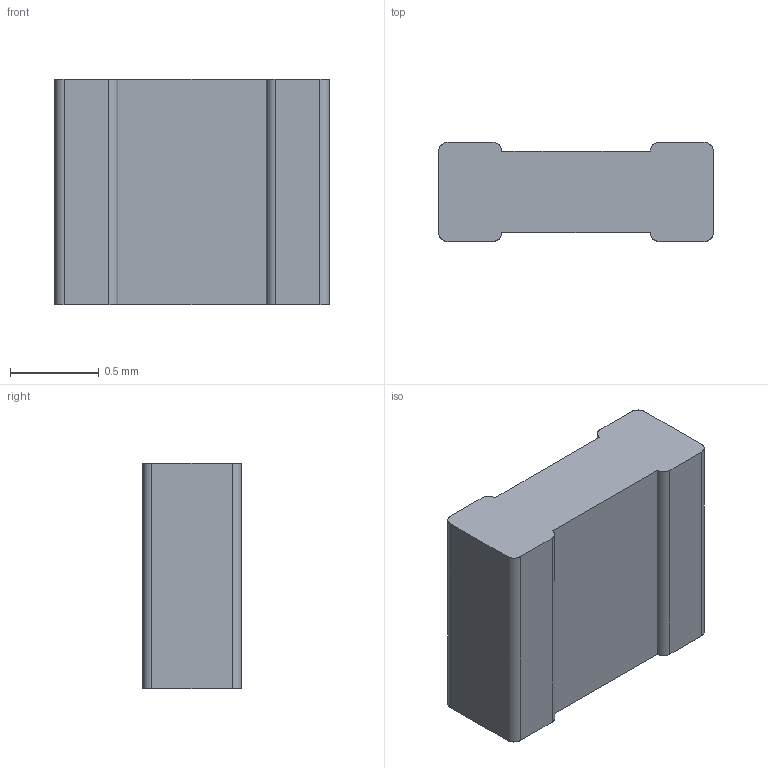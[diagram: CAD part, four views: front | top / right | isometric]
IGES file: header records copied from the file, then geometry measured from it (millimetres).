
Start section: SolidWorks IGES file using analytic representation for surfaces
Global section: file name: C:\Users\austin.mayabb\OneDrive - Lake Shore Cryotronics\SolidWorks Project\Defeatured Parts\Rox Final Defeatures\RX-102A-BR\RX-102A-BR.IGS; native system: SolidWorks 2020; preprocessor: SolidWorks 2020; author: austin.mayabb; date: 200511.112559; units: millimetre
Bounding box: 1.55 x 0.56 x 1.27 mm (x, y, z)
Surface area: 6.9 mm2 (no closed solid volume)
Topology: 0 solids, 0 shells, 23 faces, 162 edges, 162 vertices
Faces by surface type: bspline 13, revolution 10
